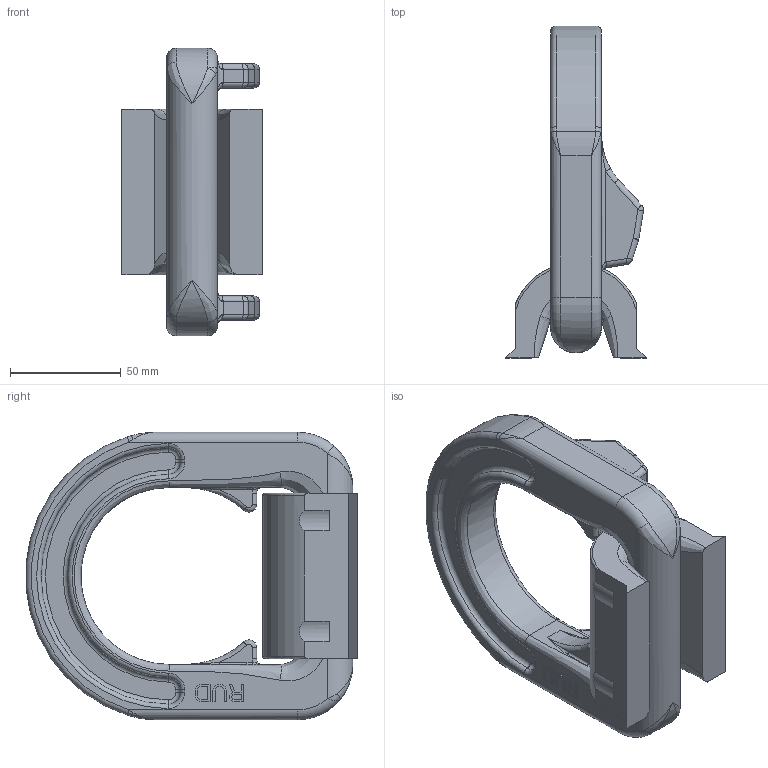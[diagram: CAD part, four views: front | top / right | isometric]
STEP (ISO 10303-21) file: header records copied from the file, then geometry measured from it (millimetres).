
FILE_DESCRIPTION((''),'2;1');
FILE_NAME('001-M33403-P01_ASM','2021-06-30T09:38:24',('Anja.Joas'),(''),'CREO PARAMETRIC BY PTC INC, 2020454','CREO PARAMETRIC BY PTC INC, 2020454','');
FILE_SCHEMA(('AP242_MANAGED_MODEL_BASED_3D_ENGINEERING_MIM_LF { 1 0 10303 442 1 1 4 }'));
Length unit declared in the file: millimetre
Products named in the file (5): 001-M33403-P2; ST37; 001-M33403-P-1; 001-M33403-P01_ASM
Assembly tree (2 placements, depth 2):
  ST37
  ST37
  001-M33403-P01_ASM
    001-M33403-P2
    001-M33403-P-1
Bounding box: 63.49 x 150.07 x 130 mm (x, y, z)
Volume: 328201.8 mm3; surface area: 58301.7 mm2
Topology: 2 solids, 2 shells, 313 faces, 774 edges, 476 vertices
Faces by surface type: plane 127, cylinder 70, bspline 68, torus 48
Entity records: 16117 total; most frequent: CARTESIAN_POINT 7513, ORIENTED_EDGE 1528, DIRECTION 1495, EDGE_CURVE 764, AXIS2_PLACEMENT_3D 542, VERTEX_POINT 464, VECTOR 411, LINE 411
